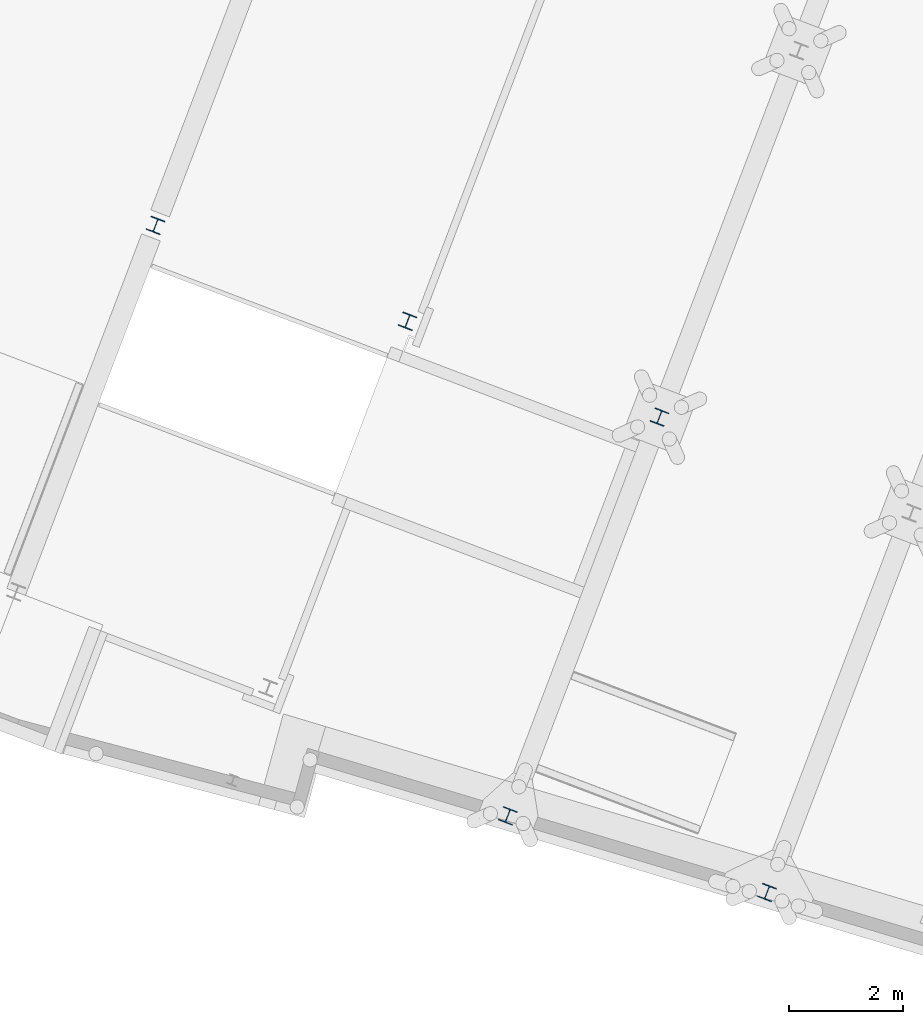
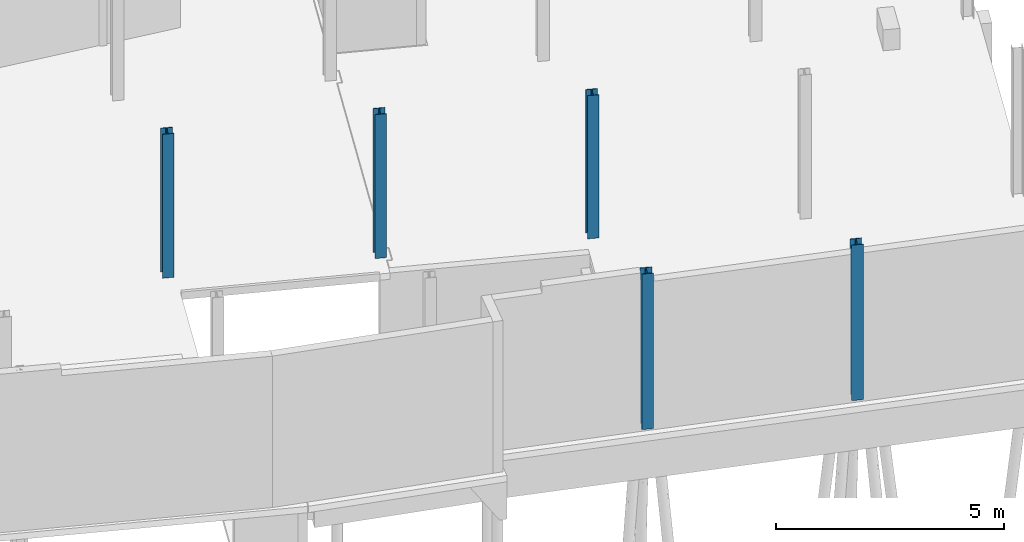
# One storey, part 33 of 46: 5 columns.
"""IFC2X3 building model written with IfcOpenShell, lengths in millimetres."""

from ifc_helpers import new_model, entity, si_unit, converted_unit, derived_unit, direction, frame, frame_2d, origin, origin_2d_with_axis, place, context, subcontext, project, spatial, i_section, extrude, source, transform, mapped, material, type_object, type_shapes, element, save


model = new_model("IFC2X3")

# Units and contexts
model_context = context("Model", 3, precision=0.01, world=origin(), true_north=direction((6.123233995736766e-17, 1.0)))
body_context = subcontext(model_context, "Body", "Model", "MODEL_VIEW")
ifc_project = project(units=[si_unit("LENGTHUNIT", "METRE", prefix="MILLI"), converted_unit("PLANEANGLEUNIT", "DEGREE", entity("IfcPlaneAngleMeasure", 0.017453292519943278), si_unit("PLANEANGLEUNIT", "RADIAN"), dimensions=[0, 0, 0, 0, 0, 0, 0]), si_unit("AREAUNIT", "SQUARE_METRE"), derived_unit("THERMALTRANSMITTANCEUNIT", [(si_unit("MASSUNIT", "GRAM", prefix="KILO"), 1), (si_unit("THERMODYNAMICTEMPERATUREUNIT", "KELVIN"), -1), (si_unit("TIMEUNIT", "SECOND"), -3)])], contexts=[model_context])

# Site, building, storey
site_placement = place(None, frame((-72937.88054949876, 11621.45624098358, 0.0), z_axis=(0.0, 0.0, 1.0), x_axis=(0.9346418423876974, -0.35559053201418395, 0.0)))
site = spatial("IfcSite", under=ifc_project, at=site_placement, Name="Default", CompositionType="ELEMENT")
building_placement = place(site_placement, origin())
building = spatial("IfcBuilding", under=site, at=building_placement, CompositionType="ELEMENT")
storey_placement = place(building_placement, origin())
storey = spatial("IfcBuildingStorey", under=building, at=storey_placement, Name="00 begane grond", CompositionType="ELEMENT", Elevation=0.0)

# Columns
ifc_material = material(Name="metaal_staal_generiek")
column_type_1 = type_object("IfcColumnType", Name="DIE26", PredefinedType="COLUMN", material=ifc_material)
shared_shape_1 = source(origin(), body_context, "Body", "SweptSolid", [
    extrude(i_section(OverallWidth=260.00000000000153, OverallDepth=249.9999999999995, WebThickness=7.499999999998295, FlangeThickness=12.50000000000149, FilletRadius=24.0, at=frame_2d((-4.320099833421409e-12, -2.1671553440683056e-12), x_axis=(1.0, 0.0))), frame((57570.0, 21880.0, -60.0), z_axis=(0.0, 0.0, 1.0), x_axis=(-1.0, 0.0, 0.0)), (0.0, 0.0, 1.0), 3839.99999999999),
])
type_shapes(column_type_1, [shared_shape_1])
column_1_placement = place(storey_placement, origin())
element("IfcColumn", 1, at=column_1_placement, inside=storey, type_object=column_type_1, material=ifc_material, Name="28.11_SCO_KolomHEA:DIE26", ObjectType="28.11_SCO_KolomHEA:DIE26", context=body_context, shape_type="MappedRepresentation", body=[
    mapped(shared_shape_1, transform((0.0, 0.0, 0.0), scale=1.0)),
])
column_type_2 = type_object("IfcColumnType", Name="DIE26", PredefinedType="COLUMN", material=ifc_material)
shared_shape_2 = source(origin(), body_context, "Body", "SweptSolid", [
    extrude(i_section(OverallWidth=260.00000000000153, OverallDepth=249.9999999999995, WebThickness=7.499999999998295, FlangeThickness=12.50000000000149, FilletRadius=24.0, at=frame_2d((-4.320099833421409e-12, -2.1671553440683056e-12), x_axis=(1.0, 0.0))), frame((52840.0, 21880.0, -60.0), z_axis=(0.0, 0.0, 1.0), x_axis=(-1.0, 0.0, 0.0)), (0.0, 0.0, 1.0), 3859.999999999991),
])
type_shapes(column_type_2, [shared_shape_2])
column_2_placement = place(storey_placement, origin())
element("IfcColumn", 2, at=column_2_placement, inside=storey, type_object=column_type_2, material=ifc_material, Name="28.11_SCO_KolomHEA:DIE26", ObjectType="28.11_SCO_KolomHEA:DIE26", context=body_context, shape_type="MappedRepresentation", body=[
    mapped(shared_shape_2, transform((0.0, 0.0, 0.0), scale=1.0)),
])
column_type_3 = type_object("IfcColumnType", Name="DIE26", PredefinedType="COLUMN", material=ifc_material)
shared_shape_3 = source(origin(), body_context, "Body", "SweptSolid", [
    extrude(i_section(OverallWidth=260.00000000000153, OverallDepth=249.9999999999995, WebThickness=7.499999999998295, FlangeThickness=12.50000000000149, FilletRadius=24.0, at=frame_2d((-4.320099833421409e-12, -2.1671553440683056e-12), x_axis=(1.0, 0.0))), frame((48110.0, 21880.0, -60.0), z_axis=(0.0, 0.0, 1.0), x_axis=(-1.0, 0.0, 0.0)), (0.0, 0.0, 1.0), 3859.999999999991),
])
type_shapes(column_type_3, [shared_shape_3])
column_3_placement = place(storey_placement, origin())
element("IfcColumn", 3, at=column_3_placement, inside=storey, type_object=column_type_3, material=ifc_material, Name="28.11_SCO_KolomHEA:DIE26", ObjectType="28.11_SCO_KolomHEA:DIE26", context=body_context, shape_type="MappedRepresentation", body=[
    mapped(shared_shape_3, transform((0.0, 0.0, 0.0), scale=1.0)),
])
column_type_4 = type_object("IfcColumnType", Name="DIE26", PredefinedType="COLUMN", material=ifc_material)
shared_shape_4 = source(origin(), body_context, "Body", "SweptSolid", [
    extrude(i_section(OverallWidth=260.0, OverallDepth=249.99999999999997, WebThickness=7.499999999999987, FlangeThickness=12.5, FilletRadius=24.0, at=origin_2d_with_axis()), frame((0.0, 0.0, 0.0), z_axis=(0.0, 0.0, 1.0), x_axis=(-1.0, 0.0, 0.0)), (0.0, 0.0, 1.0), 4170.0),
])
type_shapes(column_type_4, [shared_shape_4])
for number, where in (
    (4, (57570.0, 14395.0, 0.0)),
    (5, (62300.0, 14755.0, 0.0)),
):
    element("IfcColumn", number, at=place(storey_placement, frame(where)), inside=storey, type_object=column_type_4, material=ifc_material, Name="28.11_SCO_KolomHEA:DIE26", ObjectType="28.11_SCO_KolomHEA:DIE26", context=body_context, shape_type="MappedRepresentation", body=[
        mapped(shared_shape_4, transform((0.0, 0.0, 0.0), scale=1.0)),
    ])

save(model, "model.ifc")
